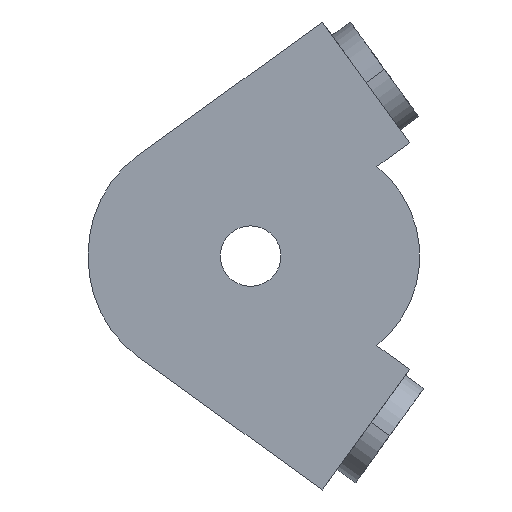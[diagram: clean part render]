
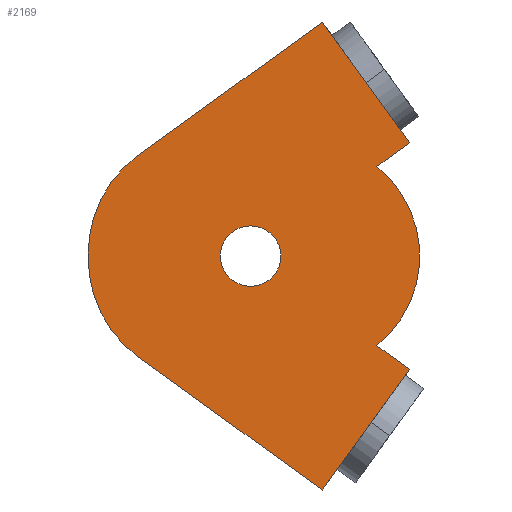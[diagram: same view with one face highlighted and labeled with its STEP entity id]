
A CAD part, front view. The second image highlights one B-rep face of the part: STEP entity #2169.
In plain terms, the highlighted planar face has unit normal (0, -1, 0).
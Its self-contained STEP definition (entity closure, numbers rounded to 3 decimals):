
#747=CARTESIAN_POINT('Vertex',(111.441,-86.,154.597)) ;
#752=CARTESIAN_POINT('Line Origine',(140.248,-86.,114.711)) ;
#756=CARTESIAN_POINT('Vertex',(169.055,-86.,74.824)) ;
#1821=CARTESIAN_POINT('Vertex',(83.97,-86.,0.)) ;
#1824=CARTESIAN_POINT('Axis2P3D Location',(63.97,-86.,0.)) ;
#1828=CARTESIAN_POINT('Vertex',(43.97,-86.,0.)) ;
#1848=CARTESIAN_POINT('Axis2P3D Location',(63.97,-86.,0.)) ;
#1869=CARTESIAN_POINT('Vertex',(169.055,-86.,-74.824)) ;
#1874=CARTESIAN_POINT('Line Origine',(140.248,-86.,-114.711)) ;
#1878=CARTESIAN_POINT('Vertex',(111.441,-86.,-154.597)) ;
#1967=CARTESIAN_POINT('Vertex',(147.424,-86.,-59.202)) ;
#1972=CARTESIAN_POINT('Line Origine',(158.24,-86.,-67.013)) ;
#1998=CARTESIAN_POINT('Vertex',(147.424,-86.,59.202)) ;
#2003=CARTESIAN_POINT('Axis2P3D Location',(99.784,-86.,0.)) ;
#2025=CARTESIAN_POINT('Line Origine',(158.24,-86.,67.013)) ;
#2047=CARTESIAN_POINT('Line Origine',(50.64,-86.,-110.686)) ;
#2051=CARTESIAN_POINT('Vertex',(-10.161,-86.,-66.774)) ;
#2122=CARTESIAN_POINT('Vertex',(-10.161,-86.,66.774)) ;
#2125=CARTESIAN_POINT('Line Origine',(50.64,-86.,110.686)) ;
#2137=CARTESIAN_POINT('Axis2P3D Location',(0.,-86.,0.)) ;
#2142=CARTESIAN_POINT('Axis2P3D Location',(36.678,-86.,-1.919)) ;
#2146=CARTESIAN_POINT('Vertex',(-43.299,-86.,0.)) ;
#2149=CARTESIAN_POINT('Axis2P3D Location',(36.678,-86.,1.919)) ;
#753=DIRECTION('Vector Direction',(0.585,0.,-0.811)) ;
#1825=DIRECTION('Axis2P3D Direction',(0.,1.,0.)) ;
#1849=DIRECTION('Axis2P3D Direction',(0.,1.,0.)) ;
#1875=DIRECTION('Vector Direction',(0.585,0.,0.811)) ;
#1973=DIRECTION('Vector Direction',(-0.811,0.,0.585)) ;
#2004=DIRECTION('Axis2P3D Direction',(0.,1.,0.)) ;
#2026=DIRECTION('Vector Direction',(-0.811,0.,-0.585)) ;
#2048=DIRECTION('Vector Direction',(0.811,0.,-0.585)) ;
#2126=DIRECTION('Vector Direction',(0.811,0.,0.585)) ;
#2138=DIRECTION('Axis2P3D Direction',(0.,1.,-0.)) ;
#2139=DIRECTION('Axis2P3D XDirection',(-1.,0.,0.)) ;
#2143=DIRECTION('Axis2P3D Direction',(0.,1.,-0.)) ;
#2150=DIRECTION('Axis2P3D Direction',(0.,1.,-0.)) ;
#1826=AXIS2_PLACEMENT_3D('Circle Axis2P3D',#1824,#1825,$) ;
#1850=AXIS2_PLACEMENT_3D('Circle Axis2P3D',#1848,#1849,$) ;
#2005=AXIS2_PLACEMENT_3D('Circle Axis2P3D',#2003,#2004,$) ;
#2140=AXIS2_PLACEMENT_3D('Plane Axis2P3D',#2137,#2138,#2139) ;
#2144=AXIS2_PLACEMENT_3D('Circle Axis2P3D',#2142,#2143,$) ;
#2151=AXIS2_PLACEMENT_3D('Circle Axis2P3D',#2149,#2150,$) ;
#2155=ORIENTED_EDGE('',*,*,#2148,.F.) ;
#2156=ORIENTED_EDGE('',*,*,#2053,.F.) ;
#2157=ORIENTED_EDGE('',*,*,#1880,.F.) ;
#2158=ORIENTED_EDGE('',*,*,#1976,.F.) ;
#2159=ORIENTED_EDGE('',*,*,#2007,.F.) ;
#2160=ORIENTED_EDGE('',*,*,#2029,.F.) ;
#2161=ORIENTED_EDGE('',*,*,#758,.F.) ;
#2162=ORIENTED_EDGE('',*,*,#2129,.F.) ;
#2163=ORIENTED_EDGE('',*,*,#2153,.F.) ;
#2166=ORIENTED_EDGE('',*,*,#1830,.T.) ;
#2167=ORIENTED_EDGE('',*,*,#1852,.T.) ;
#2168=FACE_BOUND('',#2165,.T.) ;
#754=VECTOR('Line Direction',#753,1.) ;
#1876=VECTOR('Line Direction',#1875,1.) ;
#1974=VECTOR('Line Direction',#1973,1.) ;
#2027=VECTOR('Line Direction',#2026,1.) ;
#2049=VECTOR('Line Direction',#2048,1.) ;
#2127=VECTOR('Line Direction',#2126,1.) ;
#2169=ADVANCED_FACE('PartBody',(#2164,#2168),#2141,.F.) ;
#1827=CIRCLE('generated circle',#1826,20.) ;
#1851=CIRCLE('generated circle',#1850,20.) ;
#2006=CIRCLE('generated circle',#2005,75.99) ;
#2145=CIRCLE('generated circle',#2144,80.) ;
#2152=CIRCLE('generated circle',#2151,80.) ;
#758=EDGE_CURVE('',#748,#757,#755,.T.) ;
#1830=EDGE_CURVE('',#1829,#1822,#1827,.T.) ;
#1852=EDGE_CURVE('',#1822,#1829,#1851,.T.) ;
#1880=EDGE_CURVE('',#1870,#1879,#1877,.F.) ;
#1976=EDGE_CURVE('',#1968,#1870,#1975,.F.) ;
#2007=EDGE_CURVE('',#1999,#1968,#2006,.T.) ;
#2029=EDGE_CURVE('',#757,#1999,#2028,.T.) ;
#2053=EDGE_CURVE('',#1879,#2052,#2050,.F.) ;
#2129=EDGE_CURVE('',#2123,#748,#2128,.T.) ;
#2148=EDGE_CURVE('',#2052,#2147,#2145,.T.) ;
#2153=EDGE_CURVE('',#2147,#2123,#2152,.T.) ;
#2154=EDGE_LOOP('',(#2155,#2156,#2157,#2158,#2159,#2160,#2161,#2162,#2163)) ;
#2165=EDGE_LOOP('',(#2166,#2167)) ;
#2164=FACE_OUTER_BOUND('',#2154,.T.) ;
#755=LINE('Line',#752,#754) ;
#1877=LINE('Line',#1874,#1876) ;
#1975=LINE('Line',#1972,#1974) ;
#2028=LINE('Line',#2025,#2027) ;
#2050=LINE('Line',#2047,#2049) ;
#2128=LINE('Line',#2125,#2127) ;
#2141=PLANE('Plane',#2140) ;
#748=VERTEX_POINT('',#747) ;
#757=VERTEX_POINT('',#756) ;
#1822=VERTEX_POINT('',#1821) ;
#1829=VERTEX_POINT('',#1828) ;
#1870=VERTEX_POINT('',#1869) ;
#1879=VERTEX_POINT('',#1878) ;
#1968=VERTEX_POINT('',#1967) ;
#1999=VERTEX_POINT('',#1998) ;
#2052=VERTEX_POINT('',#2051) ;
#2123=VERTEX_POINT('',#2122) ;
#2147=VERTEX_POINT('',#2146) ;
